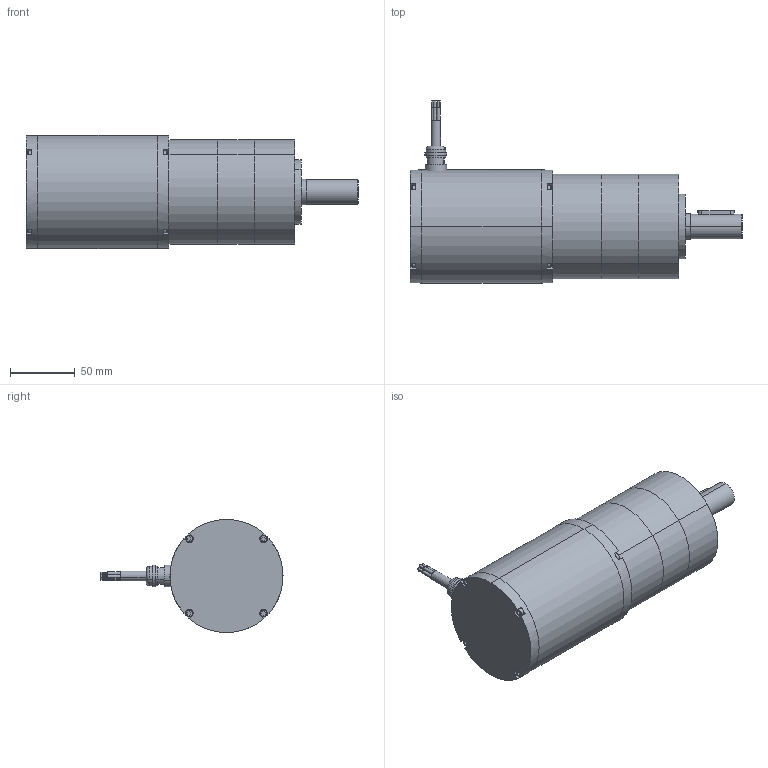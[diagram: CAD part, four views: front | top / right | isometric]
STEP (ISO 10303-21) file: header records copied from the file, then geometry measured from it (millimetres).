
FILE_DESCRIPTION (( 'STEP AP203' ), '1' );
FILE_NAME ('bl87500gp1.step', '2018-12-07T19:10:23', ( '' ), ( '' ), 'SwSTEP 2.0', 'SolidWorks 2017', '' );
FILE_SCHEMA (( 'CONFIG_CONTROL_DESIGN' ));
Length unit declared in the file: inch
Products named in the file (1): bl87500gp1
Bounding box: 256.54 x 140.68 x 87.38 mm (x, y, z)
Volume: 1191109.3 mm3; surface area: 146509.6 mm2
Topology: 22 solids, 22 shells, 462 faces, 995 edges, 632 vertices
Faces by surface type: plane 206, cylinder 185, cone 69, torus 2
Entity records: 12725 total; most frequent: DIRECTION 2334, CARTESIAN_POINT 2274, ORIENTED_EDGE 1958, EDGE_CURVE 979, AXIS2_PLACEMENT_3D 900, VERTEX_POINT 632, EDGE_LOOP 543, VECTOR 534
